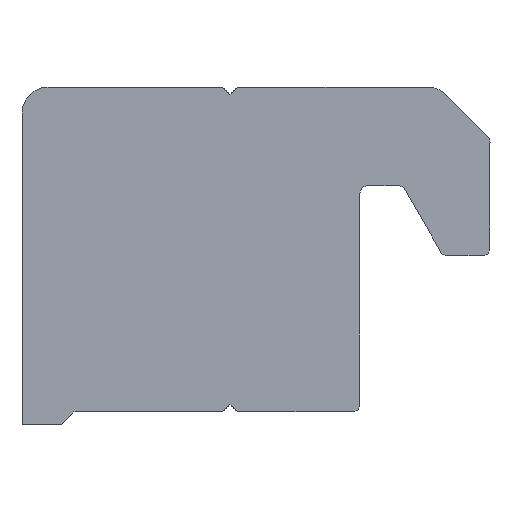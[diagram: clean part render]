
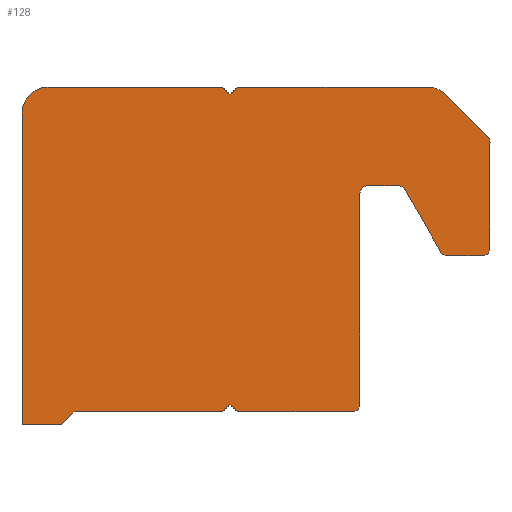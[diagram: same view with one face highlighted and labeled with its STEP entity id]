
A CAD part, front view. The second image highlights one B-rep face of the part: STEP entity #128.
In plain terms, the highlighted planar face has unit normal (0, -1, 0).
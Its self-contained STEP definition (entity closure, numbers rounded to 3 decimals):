
#128=ADVANCED_FACE('',(#262),#263,.F.);
#262=FACE_OUTER_BOUND('',#401,.T.);
#263=PLANE('',#402);
#401=EDGE_LOOP('',(#700,#701,#702,#703,#704,#705,#706,#707,#708,#709,#710,#711,#712,#713,#714,#715,#716,#717,#718,#719,#720,#721,#722,#723,#724,#725));
#402=AXIS2_PLACEMENT_3D('',#726,#727,#728);
#700=ORIENTED_EDGE('',*,*,#981,.F.);
#701=ORIENTED_EDGE('',*,*,#856,.F.);
#702=ORIENTED_EDGE('',*,*,#894,.F.);
#703=ORIENTED_EDGE('',*,*,#922,.F.);
#704=ORIENTED_EDGE('',*,*,#951,.F.);
#705=ORIENTED_EDGE('',*,*,#867,.F.);
#706=ORIENTED_EDGE('',*,*,#975,.F.);
#707=ORIENTED_EDGE('',*,*,#843,.F.);
#708=ORIENTED_EDGE('',*,*,#888,.F.);
#709=ORIENTED_EDGE('',*,*,#957,.F.);
#710=ORIENTED_EDGE('',*,*,#982,.F.);
#711=ORIENTED_EDGE('',*,*,#896,.F.);
#712=ORIENTED_EDGE('',*,*,#968,.F.);
#713=ORIENTED_EDGE('',*,*,#943,.F.);
#714=ORIENTED_EDGE('',*,*,#862,.F.);
#715=ORIENTED_EDGE('',*,*,#953,.F.);
#716=ORIENTED_EDGE('',*,*,#983,.F.);
#717=ORIENTED_EDGE('',*,*,#931,.F.);
#718=ORIENTED_EDGE('',*,*,#901,.F.);
#719=ORIENTED_EDGE('',*,*,#875,.F.);
#720=ORIENTED_EDGE('',*,*,#929,.F.);
#721=ORIENTED_EDGE('',*,*,#937,.F.);
#722=ORIENTED_EDGE('',*,*,#984,.F.);
#723=ORIENTED_EDGE('',*,*,#971,.F.);
#724=ORIENTED_EDGE('',*,*,#939,.F.);
#725=ORIENTED_EDGE('',*,*,#915,.F.);
#726=CARTESIAN_POINT('',(-7.,-7.5,12.));
#727=DIRECTION('',(0.0,1.0,0.0));
#728=DIRECTION('',(-1.0,0.0,0.0));
#843=EDGE_CURVE('',#1003,#1004,#1005,.T.);
#856=EDGE_CURVE('',#1026,#1028,#1029,.T.);
#862=EDGE_CURVE('',#1038,#1039,#1040,.T.);
#867=EDGE_CURVE('',#1047,#1048,#1049,.T.);
#875=EDGE_CURVE('',#1061,#1063,#1064,.T.);
#888=EDGE_CURVE('',#1082,#1003,#1083,.T.);
#894=EDGE_CURVE('',#1090,#1026,#1092,.T.);
#896=EDGE_CURVE('',#1094,#1095,#1096,.T.);
#901=EDGE_CURVE('',#1063,#1103,#1104,.T.);
#915=EDGE_CURVE('',#1127,#1128,#1129,.T.);
#922=EDGE_CURVE('',#1138,#1090,#1140,.T.);
#929=EDGE_CURVE('',#1147,#1061,#1149,.T.);
#931=EDGE_CURVE('',#1103,#1151,#1152,.T.);
#937=EDGE_CURVE('',#1159,#1147,#1161,.T.);
#939=EDGE_CURVE('',#1128,#1163,#1164,.T.);
#943=EDGE_CURVE('',#1039,#1169,#1170,.T.);
#951=EDGE_CURVE('',#1048,#1138,#1181,.T.);
#953=EDGE_CURVE('',#1183,#1038,#1184,.T.);
#957=EDGE_CURVE('',#1189,#1082,#1190,.T.);
#968=EDGE_CURVE('',#1169,#1094,#1205,.T.);
#971=EDGE_CURVE('',#1163,#1208,#1209,.T.);
#975=EDGE_CURVE('',#1004,#1047,#1214,.T.);
#981=EDGE_CURVE('',#1028,#1127,#1220,.T.);
#982=EDGE_CURVE('',#1095,#1189,#1221,.T.);
#983=EDGE_CURVE('',#1151,#1183,#1222,.T.);
#984=EDGE_CURVE('',#1208,#1159,#1223,.T.);
#1003=VERTEX_POINT('',#1243);
#1004=VERTEX_POINT('',#1244);
#1005=LINE('',#1245,#1246);
#1026=VERTEX_POINT('',#1274);
#1028=VERTEX_POINT('',#1277);
#1029=LINE('',#1278,#1279);
#1038=VERTEX_POINT('',#1291);
#1039=VERTEX_POINT('',#1292);
#1040=CIRCLE('',#1293,0.3);
#1047=VERTEX_POINT('',#1302);
#1048=VERTEX_POINT('',#1303);
#1049=LINE('',#1304,#1305);
#1061=VERTEX_POINT('',#1321);
#1063=VERTEX_POINT('',#1324);
#1064=LINE('',#1325,#1326);
#1082=VERTEX_POINT('',#1349);
#1083=CIRCLE('',#1350,0.3);
#1090=VERTEX_POINT('',#1358);
#1092=LINE('',#1361,#1362);
#1094=VERTEX_POINT('',#1364);
#1095=VERTEX_POINT('',#1365);
#1096=LINE('',#1366,#1367);
#1103=VERTEX_POINT('',#1377);
#1104=CIRCLE('',#1378,1.0);
#1127=VERTEX_POINT('',#1407);
#1128=VERTEX_POINT('',#1408);
#1129=LINE('',#1409,#1410);
#1138=VERTEX_POINT('',#1422);
#1140=LINE('',#1425,#1426);
#1147=VERTEX_POINT('',#1434);
#1149=LINE('',#1437,#1438);
#1151=VERTEX_POINT('',#1440);
#1152=LINE('',#1441,#1442);
#1159=VERTEX_POINT('',#1451);
#1161=LINE('',#1454,#1455);
#1163=VERTEX_POINT('',#1457);
#1164=LINE('',#1458,#1459);
#1169=VERTEX_POINT('',#1466);
#1170=LINE('',#1467,#1468);
#1181=LINE('',#1483,#1484);
#1183=VERTEX_POINT('',#1486);
#1184=LINE('',#1487,#1488);
#1189=VERTEX_POINT('',#1495);
#1190=LINE('',#1496,#1497);
#1205=CIRCLE('',#1514,0.3);
#1208=VERTEX_POINT('',#1517);
#1209=CIRCLE('',#1518,1.0);
#1214=CIRCLE('',#1524,0.3);
#1220=LINE('',#1530,#1531);
#1221=CIRCLE('',#1532,0.3);
#1222=CIRCLE('',#1533,0.3);
#1223=LINE('',#1534,#1535);
#1243=CARTESIAN_POINT('',(5.,-7.5,8.9));
#1244=CARTESIAN_POINT('',(5.,-7.5,0.8));
#1245=CARTESIAN_POINT('',(5.,-7.5,8.9));
#1246=VECTOR('',#1556,1.0);
#1274=CARTESIAN_POINT('',(-0.3,-7.5,0.5));
#1277=CARTESIAN_POINT('',(-6.,-7.5,0.5));
#1278=CARTESIAN_POINT('',(-0.3,-7.5,0.5));
#1279=VECTOR('',#1571,1.0);
#1291=CARTESIAN_POINT('',(10.,-7.5,6.8));
#1292=CARTESIAN_POINT('',(9.7,-7.5,6.5));
#1293=AXIS2_PLACEMENT_3D('',#1578,#1579,#1580);
#1302=CARTESIAN_POINT('',(4.702,-7.5,0.5));
#1303=CARTESIAN_POINT('',(4.7,-7.5,0.5));
#1304=CARTESIAN_POINT('',(4.702,-7.5,0.5));
#1305=VECTOR('',#1586,1.0);
#1321=CARTESIAN_POINT('',(0.3,-7.5,13.));
#1324=CARTESIAN_POINT('',(7.586,-7.5,13.));
#1325=CARTESIAN_POINT('',(0.3,-7.5,13.));
#1326=VECTOR('',#1595,1.0);
#1349=CARTESIAN_POINT('',(5.3,-7.5,9.2));
#1350=AXIS2_PLACEMENT_3D('',#1613,#1614,#1615);
#1358=CARTESIAN_POINT('',(0.,-7.5,0.8));
#1361=CARTESIAN_POINT('',(0.,-7.5,0.8));
#1362=VECTOR('',#1624,1.0);
#1364=CARTESIAN_POINT('',(8.113,-7.5,6.65));
#1365=CARTESIAN_POINT('',(6.728,-7.5,9.05));
#1366=CARTESIAN_POINT('',(8.113,-7.5,6.65));
#1367=VECTOR('',#1625,1.0);
#1377=CARTESIAN_POINT('',(8.293,-7.5,12.707));
#1378=AXIS2_PLACEMENT_3D('',#1629,#1630,#1631);
#1407=CARTESIAN_POINT('',(-6.5,-7.5,0.));
#1408=CARTESIAN_POINT('',(-8.,-7.5,0.));
#1409=CARTESIAN_POINT('',(-6.5,-7.5,0.));
#1410=VECTOR('',#1650,1.0);
#1422=CARTESIAN_POINT('',(0.3,-7.5,0.5));
#1425=CARTESIAN_POINT('',(0.3,-7.5,0.5));
#1426=VECTOR('',#1658,1.0);
#1434=CARTESIAN_POINT('',(0.,-7.5,12.7));
#1437=CARTESIAN_POINT('',(0.,-7.5,12.7));
#1438=VECTOR('',#1667,1.0);
#1440=CARTESIAN_POINT('',(9.912,-7.5,11.088));
#1441=CARTESIAN_POINT('',(8.293,-7.5,12.707));
#1442=VECTOR('',#1668,1.0);
#1451=CARTESIAN_POINT('',(-0.3,-7.5,13.));
#1454=CARTESIAN_POINT('',(-0.3,-7.5,13.));
#1455=VECTOR('',#1675,1.0);
#1457=CARTESIAN_POINT('',(-8.,-7.5,12.));
#1458=CARTESIAN_POINT('',(-8.,-7.5,0.));
#1459=VECTOR('',#1676,1.0);
#1466=CARTESIAN_POINT('',(8.373,-7.5,6.5));
#1467=CARTESIAN_POINT('',(9.7,-7.5,6.5));
#1468=VECTOR('',#1679,1.0);
#1483=CARTESIAN_POINT('',(4.7,-7.5,0.5));
#1484=VECTOR('',#1690,1.0);
#1486=CARTESIAN_POINT('',(10.,-7.5,10.876));
#1487=CARTESIAN_POINT('',(10.,-7.5,10.876));
#1488=VECTOR('',#1691,1.0);
#1495=CARTESIAN_POINT('',(6.468,-7.5,9.2));
#1496=CARTESIAN_POINT('',(6.468,-7.5,9.2));
#1497=VECTOR('',#1694,1.0);
#1514=AXIS2_PLACEMENT_3D('',#1712,#1713,#1714);
#1517=CARTESIAN_POINT('',(-7.,-7.5,13.));
#1518=AXIS2_PLACEMENT_3D('',#1718,#1719,#1720);
#1524=AXIS2_PLACEMENT_3D('',#1725,#1726,#1727);
#1530=CARTESIAN_POINT('',(-6.,-7.5,0.5));
#1531=VECTOR('',#1737,1.0);
#1532=AXIS2_PLACEMENT_3D('',#1738,#1739,#1740);
#1533=AXIS2_PLACEMENT_3D('',#1741,#1742,#1743);
#1534=CARTESIAN_POINT('',(-7.,-7.5,13.));
#1535=VECTOR('',#1744,1.0);
#1556=DIRECTION('',(0.,0.0,-1.0));
#1571=DIRECTION('',(-1.0,0.0,0.0));
#1578=CARTESIAN_POINT('',(9.7,-7.5,6.8));
#1579=DIRECTION('',(0.0,1.0,0.0));
#1580=DIRECTION('',(-1.0,0.0,0.0));
#1586=DIRECTION('',(-1.,0.0,-0.004));
#1595=DIRECTION('',(1.0,0.0,0.0));
#1613=CARTESIAN_POINT('',(5.3,-7.5,8.9));
#1614=DIRECTION('',(0.0,-1.0,0.0));
#1615=DIRECTION('',(1.0,0.0,0.0));
#1624=DIRECTION('',(-0.707,0.0,-0.707));
#1625=DIRECTION('',(-0.5,0.0,0.866));
#1629=CARTESIAN_POINT('',(7.586,-7.5,12.));
#1630=DIRECTION('',(0.0,1.0,0.0));
#1631=DIRECTION('',(-1.0,0.0,0.0));
#1650=DIRECTION('',(-1.0,0.0,0.0));
#1658=DIRECTION('',(-0.707,0.0,0.707));
#1667=DIRECTION('',(0.707,0.0,0.707));
#1668=DIRECTION('',(0.707,0.0,-0.707));
#1675=DIRECTION('',(0.707,0.0,-0.707));
#1676=DIRECTION('',(0.0,0.0,1.0));
#1679=DIRECTION('',(-1.0,0.0,0.0));
#1690=DIRECTION('',(-1.0,0.0,0.0));
#1691=DIRECTION('',(0.,0.0,-1.0));
#1694=DIRECTION('',(-1.0,0.0,0.));
#1712=CARTESIAN_POINT('',(8.373,-7.5,6.8));
#1713=DIRECTION('',(0.0,1.0,0.0));
#1714=DIRECTION('',(-1.0,0.0,0.0));
#1718=CARTESIAN_POINT('',(-7.,-7.5,12.));
#1719=DIRECTION('',(0.0,1.0,0.0));
#1720=DIRECTION('',(-1.0,0.0,0.0));
#1725=CARTESIAN_POINT('',(4.7,-7.5,0.8));
#1726=DIRECTION('',(0.0,1.0,0.0));
#1727=DIRECTION('',(-1.0,0.0,0.0));
#1737=DIRECTION('',(-0.707,0.0,-0.707));
#1738=CARTESIAN_POINT('',(6.468,-7.5,8.9));
#1739=DIRECTION('',(0.0,-1.0,0.0));
#1740=DIRECTION('',(1.0,0.0,0.0));
#1741=CARTESIAN_POINT('',(9.7,-7.5,10.876));
#1742=DIRECTION('',(0.0,1.0,0.0));
#1743=DIRECTION('',(-1.0,0.0,0.0));
#1744=DIRECTION('',(1.0,0.0,0.0));
